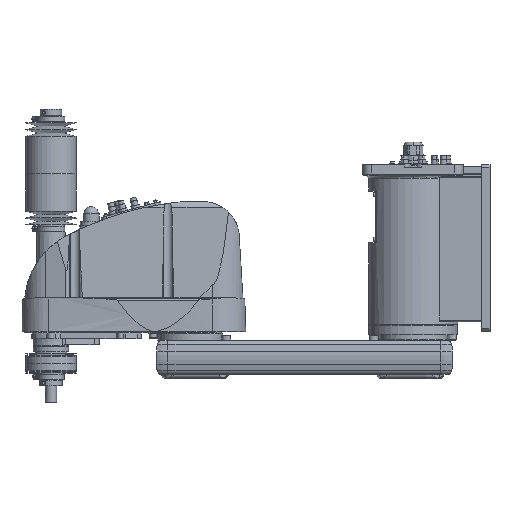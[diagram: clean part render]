
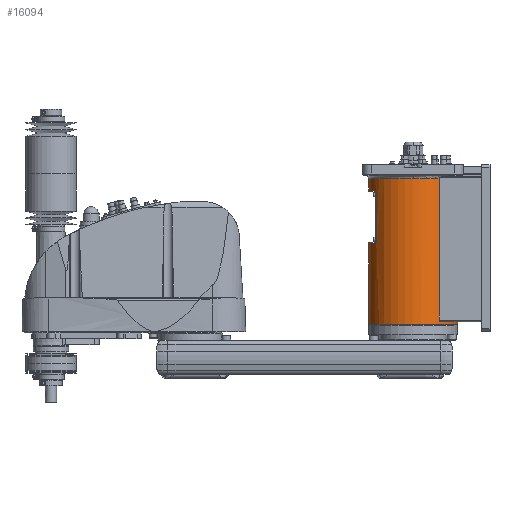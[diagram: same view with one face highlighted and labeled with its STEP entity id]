
A CAD part, top view. The second image highlights one B-rep face of the part: STEP entity #16094.
In plain terms, the highlighted cylindrical face has radius 80 mm (diameter 160 mm), a partial arc.
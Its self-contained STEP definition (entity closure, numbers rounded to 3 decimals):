
#10428 = VERTEX_POINT( '', #28937 );
#10704 = VERTEX_POINT( '', #29239 );
#11534 = EDGE_CURVE( '', #20586, #15480, #30172, .T. );
#11756 = VERTEX_POINT( '', #30423 );
#14280 = EDGE_CURVE( '', #19078, #10428, #33246, .T. );
#14588 = EDGE_CURVE( '', #10704, #27528, #33577, .T. );
#14968 = VERTEX_POINT( '', #33986 );
#15480 = VERTEX_POINT( '', #34562 );
#15818 = EDGE_CURVE( '', #14968, #18320, #34942, .T. );
#16094 = ADVANCED_FACE( '', ( #35254 ), #35255, .T. );
#17266 = EDGE_CURVE( '', #18320, #23720, #36568, .T. );
#18084 = VERTEX_POINT( '', #37480 );
#18320 = VERTEX_POINT( '', #37757 );
#18414 = EDGE_CURVE( '', #10428, #27528, #37862, .T. );
#19078 = VERTEX_POINT( '', #38597 );
#20150 = EDGE_CURVE( '', #18084, #22626, #39803, .T. );
#20174 = EDGE_CURVE( '', #11756, #14968, #39832, .T. );
#20586 = VERTEX_POINT( '', #40283 );
#21216 = EDGE_CURVE( '', #19078, #20586, #40984, .T. );
#21342 = EDGE_CURVE( '', #23720, #10704, #41120, .T. );
#22626 = VERTEX_POINT( '', #42560 );
#23292 = EDGE_CURVE( '', #15480, #18084, #43313, .T. );
#23720 = VERTEX_POINT( '', #43790 );
#25404 = EDGE_CURVE( '', #22626, #11756, #45665, .T. );
#27528 = VERTEX_POINT( '', #48018 );
#28937 = CARTESIAN_POINT( '', ( 0., 291.5, 80. ) );
#29239 = CARTESIAN_POINT( '', ( 46.637, 37.5, 65. ) );
#30172 = CIRCLE( '', #51971, 80. );
#30423 = CARTESIAN_POINT( '', ( -80., 30., 0. ) );
#33246 = CIRCLE( '', #56671, 80. );
#33577 = LINE( '', #57248, #57249 );
#33986 = CARTESIAN_POINT( '', ( 80., 30., 0. ) );
#34562 = CARTESIAN_POINT( '', ( -66., 269., 45.211 ) );
#34942 = LINE( '', #59294, #59295 );
#35254 = FACE_OUTER_BOUND( '', #59753, .T. );
#35255 = CYLINDRICAL_SURFACE( '', #59754, 80. );
#36568 = CIRCLE( '', #61879, 80. );
#37480 = CARTESIAN_POINT( '', ( -66., 176., 45.211 ) );
#37757 = CARTESIAN_POINT( '', ( 80., 34.5, 0. ) );
#37862 = CIRCLE( '', #63751, 80. );
#38597 = CARTESIAN_POINT( '', ( -80., 291.5, 0. ) );
#39803 = CIRCLE( '', #67042, 80. );
#39832 = CIRCLE( '', #67081, 80. );
#40283 = CARTESIAN_POINT( '', ( -80., 269., 0. ) );
#40984 = LINE( '', #68858, #68859 );
#41120 = B_SPLINE_CURVE_WITH_KNOTS( '', 3, ( #69050, #69051, #69052, #69053, #69054, #69055, #69056, #69057, #69058, #69059, #69060, #69061, #69062, #69063, #69064, #69065 ), .UNSPECIFIED., .F., .F., ( 4, 2, 2, 2, 2, 2, 2, 4 ), ( -6.06, -5.11, -4.16, -2.26, -1.695, -1.13, -0.565, 0. ), .UNSPECIFIED. );
#42560 = CARTESIAN_POINT( '', ( -80., 176., 0. ) );
#43313 = LINE( '', #72433, #72434 );
#43790 = CARTESIAN_POINT( '', ( 50.557, 34.5, 62. ) );
#45665 = LINE( '', #75901, #75902 );
#48018 = CARTESIAN_POINT( '', ( 46.637, 291.5, 65. ) );
#51971 = AXIS2_PLACEMENT_3D( '', #82569, #82570, #82571 );
#56671 = AXIS2_PLACEMENT_3D( '', #86227, #86228, #86229 );
#57248 = CARTESIAN_POINT( '', ( 46.637, 164.5, 65. ) );
#57249 = VECTOR( '', #86539, 1. );
#59294 = CARTESIAN_POINT( '', ( 80., 160.75, 0. ) );
#59295 = VECTOR( '', #88137, 1. );
#59753 = EDGE_LOOP( '', ( #88531, #88532, #88533, #88534, #88535, #88536, #88537, #88538, #88539, #88540, #88541, #88542 ) );
#59754 = AXIS2_PLACEMENT_3D( '', #88543, #88544, #88545 );
#61879 = AXIS2_PLACEMENT_3D( '', #90118, #90119, #90120 );
#63751 = AXIS2_PLACEMENT_3D( '', #91670, #91671, #91672 );
#67042 = AXIS2_PLACEMENT_3D( '', #93920, #93921, #93922 );
#67081 = AXIS2_PLACEMENT_3D( '', #93967, #93968, #93969 );
#68858 = CARTESIAN_POINT( '', ( -80., 160.75, 0. ) );
#68859 = VECTOR( '', #95202, 1. );
#69050 = CARTESIAN_POINT( '', ( 50.557, 34.5, 62. ) );
#69051 = CARTESIAN_POINT( '', ( 50.312, 34.5, 62.2 ) );
#69052 = CARTESIAN_POINT( '', ( 50.054, 34.52, 62.407 ) );
#69053 = CARTESIAN_POINT( '', ( 49.533, 34.607, 62.822 ) );
#69054 = CARTESIAN_POINT( '', ( 49.269, 34.674, 63.029 ) );
#69055 = CARTESIAN_POINT( '', ( 48.491, 34.945, 63.632 ) );
#69056 = CARTESIAN_POINT( '', ( 47.991, 35.221, 64.009 ) );
#69057 = CARTESIAN_POINT( '', ( 47.455, 35.701, 64.405 ) );
#69058 = CARTESIAN_POINT( '', ( 47.333, 35.827, 64.495 ) );
#69059 = CARTESIAN_POINT( '', ( 47.106, 36.105, 64.661 ) );
#69060 = CARTESIAN_POINT( '', ( 47.002, 36.258, 64.736 ) );
#69061 = CARTESIAN_POINT( '', ( 46.828, 36.585, 64.863 ) );
#69062 = CARTESIAN_POINT( '', ( 46.758, 36.761, 64.913 ) );
#69063 = CARTESIAN_POINT( '', ( 46.662, 37.124, 64.982 ) );
#69064 = CARTESIAN_POINT( '', ( 46.637, 37.312, 65. ) );
#69065 = CARTESIAN_POINT( '', ( 46.637, 37.5, 65. ) );
#72433 = CARTESIAN_POINT( '', ( -66., 222.5, 45.211 ) );
#72434 = VECTOR( '', #97963, 1. );
#75901 = CARTESIAN_POINT( '', ( -80., 160.75, 0. ) );
#75902 = VECTOR( '', #100666, 1. );
#82569 = CARTESIAN_POINT( '', ( 0., 269., 0. ) );
#82570 = DIRECTION( '', ( 0., 1., 0. ) );
#82571 = DIRECTION( '', ( 1., 0., 0. ) );
#86227 = CARTESIAN_POINT( '', ( 0., 291.5, 0. ) );
#86228 = DIRECTION( '', ( 0., 1., 0. ) );
#86229 = DIRECTION( '', ( 1., 0., 0. ) );
#86539 = DIRECTION( '', ( 0., 1., 0. ) );
#88137 = DIRECTION( '', ( 0., 1., 0. ) );
#88531 = ORIENTED_EDGE( '', *, *, #15818, .T. );
#88532 = ORIENTED_EDGE( '', *, *, #17266, .T. );
#88533 = ORIENTED_EDGE( '', *, *, #21342, .T. );
#88534 = ORIENTED_EDGE( '', *, *, #14588, .T. );
#88535 = ORIENTED_EDGE( '', *, *, #18414, .F. );
#88536 = ORIENTED_EDGE( '', *, *, #14280, .F. );
#88537 = ORIENTED_EDGE( '', *, *, #21216, .T. );
#88538 = ORIENTED_EDGE( '', *, *, #11534, .T. );
#88539 = ORIENTED_EDGE( '', *, *, #23292, .T. );
#88540 = ORIENTED_EDGE( '', *, *, #20150, .T. );
#88541 = ORIENTED_EDGE( '', *, *, #25404, .T. );
#88542 = ORIENTED_EDGE( '', *, *, #20174, .T. );
#88543 = CARTESIAN_POINT( '', ( 0., 160.75, 0. ) );
#88544 = DIRECTION( '', ( 0., -1., 0. ) );
#88545 = DIRECTION( '', ( 1., 0., 0. ) );
#90118 = CARTESIAN_POINT( '', ( 0., 34.5, 0. ) );
#90119 = DIRECTION( '', ( 0., -1., 0. ) );
#90120 = DIRECTION( '', ( 1., 0., 0. ) );
#91670 = CARTESIAN_POINT( '', ( 0., 291.5, 0. ) );
#91671 = DIRECTION( '', ( 0., 1., 0. ) );
#91672 = DIRECTION( '', ( 1., 0., 0. ) );
#93920 = CARTESIAN_POINT( '', ( 0., 176., 0. ) );
#93921 = DIRECTION( '', ( 0., -1., 0. ) );
#93922 = DIRECTION( '', ( 1., 0., 0. ) );
#93967 = CARTESIAN_POINT( '', ( 0., 30., 0. ) );
#93968 = DIRECTION( '', ( 0., 1., 0. ) );
#93969 = DIRECTION( '', ( 1., 0., 0. ) );
#95202 = DIRECTION( '', ( 0., -1., 0. ) );
#97963 = DIRECTION( '', ( 0., -1., 0. ) );
#100666 = DIRECTION( '', ( 0., -1., 0. ) );
